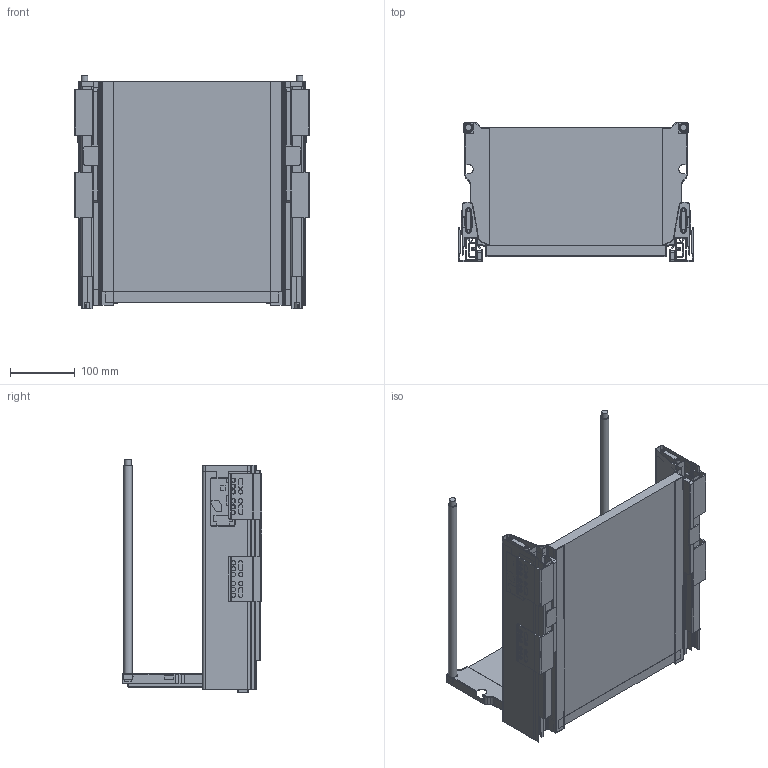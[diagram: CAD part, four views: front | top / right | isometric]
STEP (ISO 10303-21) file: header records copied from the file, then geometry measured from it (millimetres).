
FILE_DESCRIPTION(/* description */ (''),/* implementation_level */ '2;1');
FILE_NAME(/* name */ 'D:\$Workingspace\Designs\Katalog\Cadsoft\GTV Prwadnice II\PB-D(KW)\PB-D(KW)\MB bryły 3D\PB-D-P2O350C.stp',/* time_stamp */ '2017-02-09T09:09:16+01:00',/* author */ ('tomaszw'),/* organization */ (''),/* preprocessor_version */ 'ST-DEVELOPER v16.1',/* originating_system */ 'Autodesk Inventor 2016',/* authorisation */ '');
FILE_SCHEMA (('CONFIG_CONTROL_DESIGN'));
Length unit declared in the file: millimetre
Products named in the file (17): PB-D-PRP2O-CL-350; PB-D-PRP2O-CR-350; PB-D-PRP2O-DL-350; PB-D-PRP2O-DR-350; PB-D-PR-DWL-350; PB-D-PR-DWR-350; PB-D-PRP2O-350; PB-M-350-L; PB-M-350-R; MF-01; MB; MST-H-R; MST-H-L; PB-D-REL350; B_H; A_350; PB-D(KW)
Assembly tree (19 placements, depth 3):
  PB-D(KW)
    PB-D-PRP2O-350
      PB-D-PRP2O-CL-350
      PB-D-PRP2O-CR-350
      PB-D-PRP2O-DL-350
      PB-D-PRP2O-DR-350
      PB-D-PR-DWL-350
      PB-D-PR-DWR-350
    PB-M-350-L
    PB-M-350-R
    MF-01  x2
    MB  x2
    MST-H-R
    MST-H-L
    PB-D-REL350  x2
    B_H
    A_350
Bounding box: 364 x 216.25 x 361.5 mm (x, y, z)
Volume: 3481162.1 mm3; surface area: 1192441.6 mm2
Topology: 28 solids, 28 shells, 1382 faces, 3666 edges, 2334 vertices
Faces by surface type: plane 736, cylinder 494, torus 70, cone 48, sphere 32, bspline 2
Full cylindrical faces by diameter (mm): 4 x4, 6.5 x32, 10 x2, 13 x2
Entity records: 40214 total; most frequent: DIRECTION 6756, CARTESIAN_POINT 6741, ORIENTED_EDGE 6540, EDGE_CURVE 3270, LINE 2314, VECTOR 2314, AXIS2_PLACEMENT_3D 2221, VERTEX_POINT 2148
